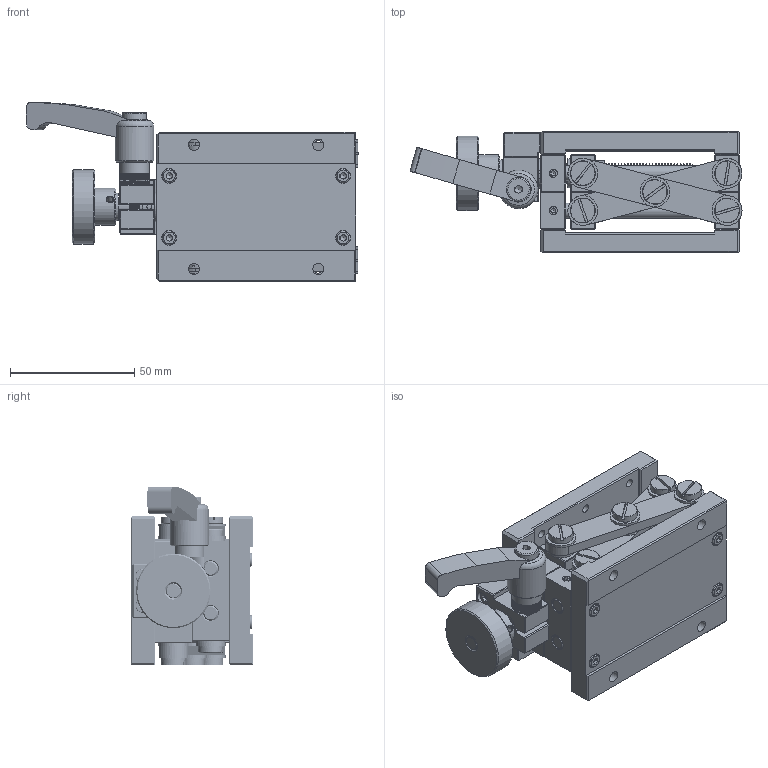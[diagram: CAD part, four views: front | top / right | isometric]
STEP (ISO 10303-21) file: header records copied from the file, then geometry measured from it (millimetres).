
FILE_DESCRIPTION (( 'STEP AP203' ), '1' );
FILE_NAME ('BLJZ60.STEP', '2024-07-15T09:27:12', ( 'Windows User' ), ( 'P R C' ), 'SwSTEP 2.0', 'SolidWorks 2024', '' );
FILE_SCHEMA (( 'CONFIG_CONTROL_DESIGN' ));
Products named in the file (1): BLJZ60
Bounding box: 133.68 x 49 x 72 mm (x, y, z)
Volume: 156888.8 mm3; surface area: 86894.3 mm2
Topology: 74 solids, 74 shells, 1487 faces, 3303 edges, 2018 vertices
Faces by surface type: plane 979, cylinder 290, cone 164, bspline 41, torus 12, sphere 1
Full cylindrical faces by diameter (mm): 2.05 x2, 2.5 x23, 3 x11, 3.3 x27, 3.4 x10, 3.5 x10, 4 x4, 4.5 x5, 5.5 x10, 5.8 x1, 6 x43, 6.02 x12, 6.038 x1, 6.5 x27, 7.2 x1, 8 x7, 8.5 x4, 9.6 x2, 10 x15, 10.02 x1, 11 x1, 11.6 x1, 12 x26, 15 x1, 15.5 x1, 30 x1
Entity records: 75181 total; most frequent: CARTESIAN_POINT 45026, DIRECTION 6071, ORIENTED_EDGE 5536, EDGE_CURVE 2768, AXIS2_PLACEMENT_3D 2323, EDGE_LOOP 2153, VERTEX_POINT 1887, FACE_OUTER_BOUND 1735
